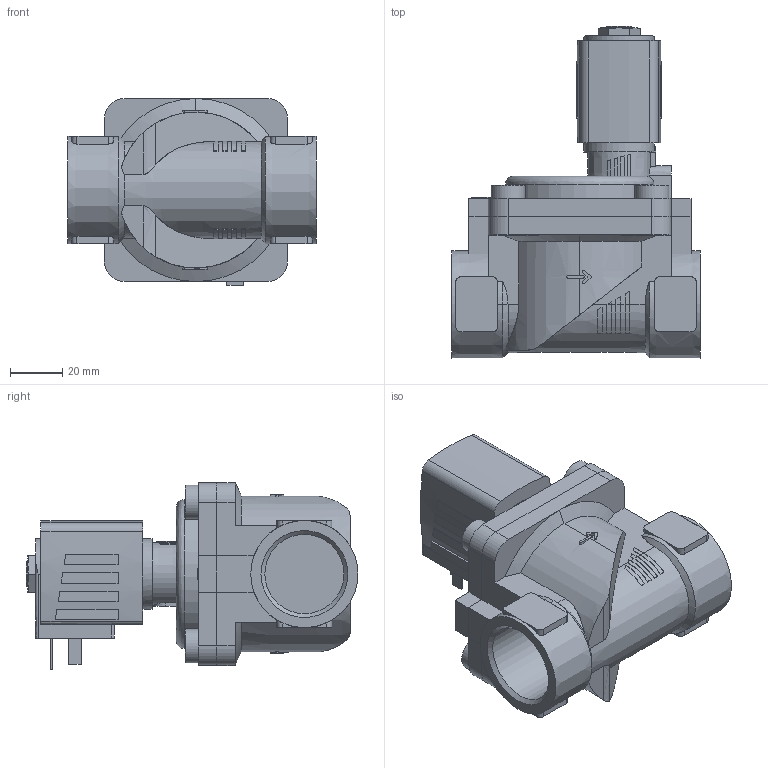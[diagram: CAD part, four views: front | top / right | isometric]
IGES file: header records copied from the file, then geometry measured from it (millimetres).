
Start section: Data from Parasolid IGES Translator 26.0.171, Copyright(c) 2006 Siemens PLM Software. All Rights Reserved.
Global section: file name: 6281-365094-2_2-Way_Solenoid_Valve__Servo-assisted__General_Purpose.igs; native system: By Siemens PLM Incorporated; preprocessor: XPlus GENERIC/IGES 26.0.171; author: Noname; organization: Noname; date: 20240617.143742; units: millimetre
Bounding box: 95 x 127 x 71.5 mm (x, y, z)
Surface area: 54719.8 mm2 (no closed solid volume)
Topology: 0 solids, 0 shells, 353 faces, 1862 edges, 1843 vertices
Faces by surface type: extrusion 234, revolution 119
